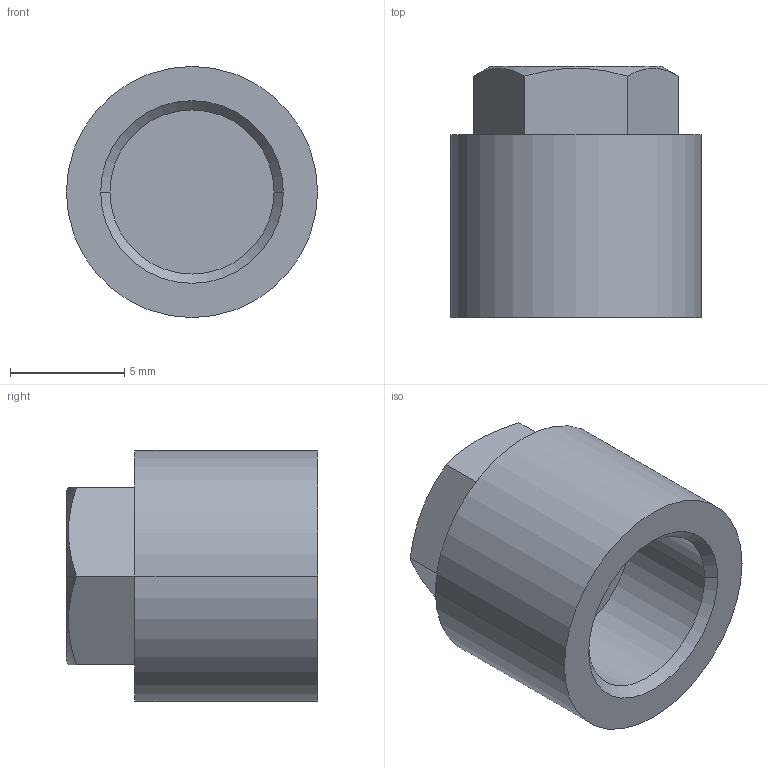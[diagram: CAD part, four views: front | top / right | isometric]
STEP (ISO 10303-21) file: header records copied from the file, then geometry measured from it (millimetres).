
FILE_DESCRIPTION((''),'2;1');
FILE_NAME('1823313001','2015-04-08T',('vol1hc'),(''),'PRO/ENGINEER BY PARAMETRIC TECHNOLOGY CORPORATION, 2009380','PRO/ENGINEER BY PARAMETRIC TECHNOLOGY CORPORATION, 2009380','');
FILE_SCHEMA(('CONFIG_CONTROL_DESIGN'));
Length unit declared in the file: millimetre
Products named in the file (1): 1823313001
Bounding box: 11 x 11 x 11 mm (x, y, z)
Volume: 656.7 mm3; surface area: 807.5 mm2
Topology: 1 solids, 1 shells, 27 faces, 56 edges, 36 vertices
Faces by surface type: plane 13, cylinder 10, cone 4
Entity records: 838 total; most frequent: CARTESIAN_POINT 197, DIRECTION 128, ORIENTED_EDGE 112, EDGE_CURVE 56, AXIS2_PLACEMENT_3D 51, VERTEX_POINT 36, EDGE_LOOP 32, FACE_OUTER_BOUND 27
